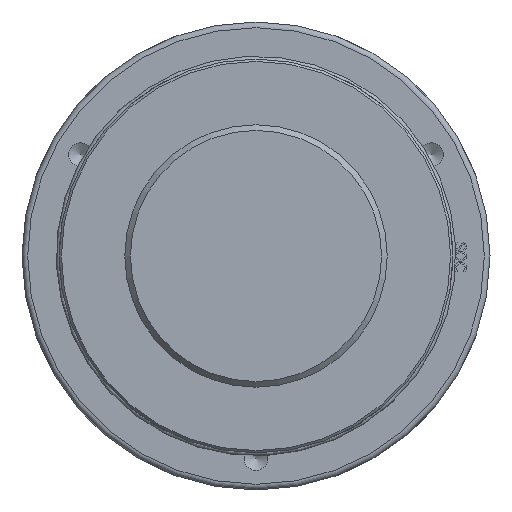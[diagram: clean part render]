
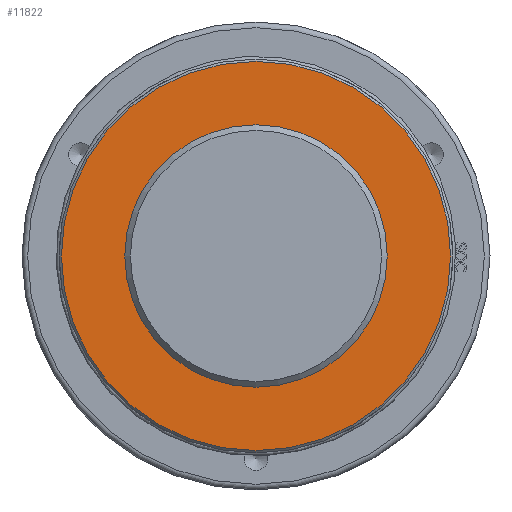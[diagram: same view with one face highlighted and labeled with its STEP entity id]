
A CAD part, front view. The second image highlights one B-rep face of the part: STEP entity #11822.
In plain terms, the highlighted planar face has unit normal (0, -1, 0) as drawn and (0, 1, 0) by its records, which use the part's own axes.
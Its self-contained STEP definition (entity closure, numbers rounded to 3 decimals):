
#90=CIRCLE('',#12465,170.5);
#92=CIRCLE('',#12469,111.753);
#171=FACE_BOUND('',#2135,.T.);
#1418=FACE_OUTER_BOUND('',#2134,.T.);
#2134=EDGE_LOOP('',(#9348));
#2135=EDGE_LOOP('',(#9349));
#5324=VERTEX_POINT('',#17978);
#5338=VERTEX_POINT('',#18218);
#6775=EDGE_CURVE('',#5324,#5324,#90,.T.);
#6789=EDGE_CURVE('',#5338,#5338,#92,.T.);
#9348=ORIENTED_EDGE('',*,*,#6775,.F.);
#9349=ORIENTED_EDGE('',*,*,#6789,.T.);
#11349=PLANE('',#12468);
#11822=ADVANCED_FACE('',(#1418,#171),#11349,.T.);
#12465=AXIS2_PLACEMENT_3D('',#17979,#13676,#13677);
#12468=AXIS2_PLACEMENT_3D('',#18217,#13682,#13683);
#12469=AXIS2_PLACEMENT_3D('',#18219,#13684,#13685);
#13676=DIRECTION('center_axis',(0.,-1.,0.));
#13677=DIRECTION('ref_axis',(1.,0.,0.));
#13682=DIRECTION('center_axis',(0.,1.,0.));
#13683=DIRECTION('ref_axis',(0.,0.,1.));
#13684=DIRECTION('center_axis',(0.,-1.,0.));
#13685=DIRECTION('ref_axis',(1.,0.,0.));
#17978=CARTESIAN_POINT('',(-170.5,115.,0.));
#17979=CARTESIAN_POINT('Origin',(0.,115.,0.));
#18217=CARTESIAN_POINT('Origin',(0.,115.,0.));
#18218=CARTESIAN_POINT('',(-111.753,115.,0.));
#18219=CARTESIAN_POINT('Origin',(0.,115.,0.));
